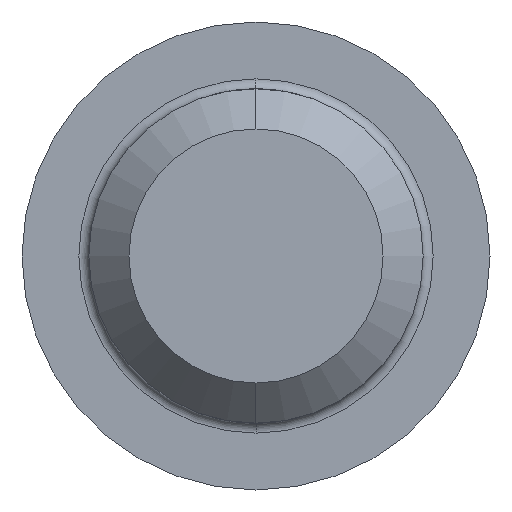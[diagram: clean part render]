
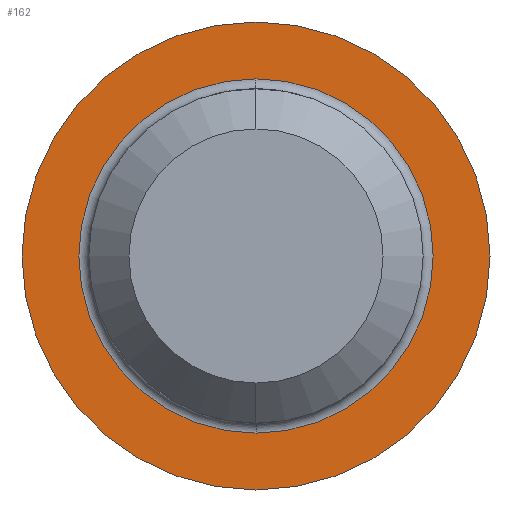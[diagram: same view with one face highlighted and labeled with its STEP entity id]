
A CAD part, left-side view. The second image highlights one B-rep face of the part: STEP entity #162.
In plain terms, the highlighted planar face has unit normal (-1, 0, 0).
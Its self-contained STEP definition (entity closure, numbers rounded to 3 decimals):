
#16 = EDGE_CURVE ( 'NONE', #70, #20, #278, .T. ) ;
#20 = VERTEX_POINT ( 'NONE', #271 ) ;
#42 = EDGE_CURVE ( 'NONE', #243, #148, #166, .T. ) ;
#70 = VERTEX_POINT ( 'NONE', #432 ) ;
#148 = VERTEX_POINT ( 'NONE', #363 ) ;
#151 = ORIENTED_EDGE ( 'NONE', *, *, #42, .T. ) ;
#152 = EDGE_CURVE ( 'NONE', #20, #70, #333, .T. ) ;
#161 = EDGE_LOOP ( 'NONE', ( #230, #315 ) ) ;
#162 = ADVANCED_FACE ( 'NONE', ( #358, #337 ), #341, .F. ) ;
#166 = CIRCLE ( 'NONE', #216, 7. ) ;
#187 = DIRECTION ( 'NONE',  ( 0., 0., 1. ) ) ;
#188 = DIRECTION ( 'NONE',  ( -1., 0., 0. ) ) ;
#216 = AXIS2_PLACEMENT_3D ( 'NONE', #223, #188, #187 ) ;
#223 = CARTESIAN_POINT ( 'NONE',  ( 0., 0., 0. ) ) ;
#230 = ORIENTED_EDGE ( 'NONE', *, *, #152, .T. ) ;
#237 = EDGE_LOOP ( 'NONE', ( #151, #238 ) ) ;
#238 = ORIENTED_EDGE ( 'NONE', *, *, #317, .T. ) ;
#243 = VERTEX_POINT ( 'NONE', #482 ) ;
#268 = DIRECTION ( 'NONE',  ( 0., 0., -1. ) ) ;
#269 = DIRECTION ( 'NONE',  ( 1., 0., 0. ) ) ;
#270 = AXIS2_PLACEMENT_3D ( 'NONE', #276, #269, #268 ) ;
#271 = CARTESIAN_POINT ( 'NONE',  ( 0., 0., -5.3 ) ) ;
#276 = CARTESIAN_POINT ( 'NONE',  ( 0., 0., 0. ) ) ;
#278 = CIRCLE ( 'NONE', #270, 5.3 ) ;
#315 = ORIENTED_EDGE ( 'NONE', *, *, #16, .T. ) ;
#317 = EDGE_CURVE ( 'NONE', #148, #243, #395, .T. ) ;
#331 = DIRECTION ( 'NONE',  ( 0., 0., -1. ) ) ;
#332 = AXIS2_PLACEMENT_3D ( 'NONE', #342, #419, #331 ) ;
#333 = CIRCLE ( 'NONE', #332, 5.3 ) ;
#336 = AXIS2_PLACEMENT_3D ( 'NONE', #375, #357, #475 ) ;
#337 = FACE_OUTER_BOUND ( 'NONE', #237, .T. ) ;
#341 = PLANE ( 'NONE',  #336 ) ;
#342 = CARTESIAN_POINT ( 'NONE',  ( 0., 0., 0. ) ) ;
#357 = DIRECTION ( 'NONE',  ( 1., 0., 0. ) ) ;
#358 = FACE_BOUND ( 'NONE', #161, .T. ) ;
#363 = CARTESIAN_POINT ( 'NONE',  ( 0., 0., -7. ) ) ;
#375 = CARTESIAN_POINT ( 'NONE',  ( 0., 7., 0. ) ) ;
#392 = DIRECTION ( 'NONE',  ( 0., 0., 1. ) ) ;
#393 = DIRECTION ( 'NONE',  ( -1., 0., 0. ) ) ;
#394 = AXIS2_PLACEMENT_3D ( 'NONE', #403, #393, #392 ) ;
#395 = CIRCLE ( 'NONE', #394, 7. ) ;
#403 = CARTESIAN_POINT ( 'NONE',  ( 0., 0., 0. ) ) ;
#419 = DIRECTION ( 'NONE',  ( 1., 0., 0. ) ) ;
#432 = CARTESIAN_POINT ( 'NONE',  ( 0., 0., 5.3 ) ) ;
#475 = DIRECTION ( 'NONE',  ( 0., 0., -1. ) ) ;
#482 = CARTESIAN_POINT ( 'NONE',  ( 0., 0., 7. ) ) ;
